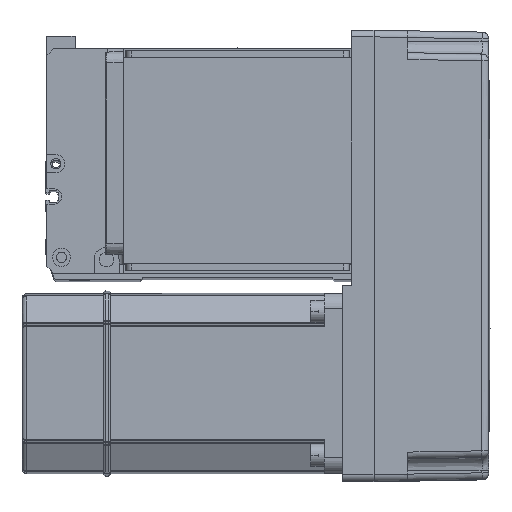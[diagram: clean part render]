
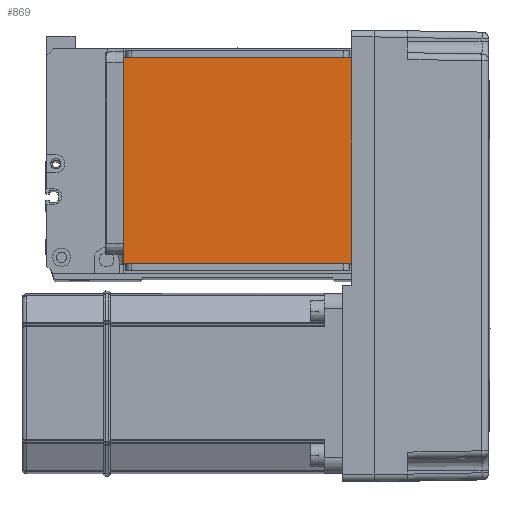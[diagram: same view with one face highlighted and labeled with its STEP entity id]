
A CAD part, top view. The second image highlights one B-rep face of the part: STEP entity #869.
In plain terms, the highlighted planar face has unit normal (0, 0, 1).
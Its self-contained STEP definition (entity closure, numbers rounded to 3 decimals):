
#869 = ADVANCED_FACE ( 'NONE', ( #14170 ), #30763, .T. ) ;
#5862 = EDGE_CURVE ( 'NONE', #26052, #12567, #26542, .T. ) ;
#5895 = EDGE_CURVE ( 'NONE', #19059, #55391, #53468, .T. ) ;
#8276 = EDGE_CURVE ( 'NONE', #26052, #55391, #51478, .T. ) ;
#8804 = VECTOR ( 'NONE', #52243, 1000. ) ;
#12418 = VECTOR ( 'NONE', #27134, 1000. ) ;
#12567 = VERTEX_POINT ( 'NONE', #15070 ) ;
#13845 = DIRECTION ( 'NONE',  ( 0., 1., 0. ) ) ;
#14026 = CARTESIAN_POINT ( 'NONE',  ( 50.5, 122., 115. ) ) ;
#14170 = FACE_OUTER_BOUND ( 'NONE', #48411, .T. ) ;
#14244 = CARTESIAN_POINT ( 'NONE',  ( -50.5, 111.5, 115. ) ) ;
#14499 = VECTOR ( 'NONE', #13845, 1000. ) ;
#15070 = CARTESIAN_POINT ( 'NONE',  ( 50.5, 111.5, 115. ) ) ;
#16456 = ORIENTED_EDGE ( 'NONE', *, *, #5862, .T. ) ;
#17554 = CARTESIAN_POINT ( 'NONE',  ( -70.004, 111.5, 115. ) ) ;
#17815 = DIRECTION ( 'NONE',  ( 1., 0., 0. ) ) ;
#19059 = VERTEX_POINT ( 'NONE', #14244 ) ;
#21798 = ORIENTED_EDGE ( 'NONE', *, *, #8276, .F. ) ;
#22182 = ORIENTED_EDGE ( 'NONE', *, *, #5895, .T. ) ;
#22322 = DIRECTION ( 'NONE',  ( 0., 0., 1. ) ) ;
#22558 = VECTOR ( 'NONE', #31074, 1000. ) ;
#25270 = ORIENTED_EDGE ( 'NONE', *, *, #29018, .F. ) ;
#26052 = VERTEX_POINT ( 'NONE', #54294 ) ;
#26542 = LINE ( 'NONE', #14026, #14499 ) ;
#27134 = DIRECTION ( 'NONE',  ( 0., -1., 0. ) ) ;
#29018 = EDGE_CURVE ( 'NONE', #19059, #12567, #41721, .T. ) ;
#30763 = PLANE ( 'NONE',  #35936 ) ;
#31074 = DIRECTION ( 'NONE',  ( -1., 0., 0. ) ) ;
#31806 = CARTESIAN_POINT ( 'NONE',  ( -50.5, 20., 115. ) ) ;
#35116 = CARTESIAN_POINT ( 'NONE',  ( 0., 0., 115. ) ) ;
#35936 = AXIS2_PLACEMENT_3D ( 'NONE', #35116, #22322, #17815 ) ;
#40098 = CARTESIAN_POINT ( 'NONE',  ( -70.004, 20., 115. ) ) ;
#41721 = LINE ( 'NONE', #17554, #8804 ) ;
#48193 = CARTESIAN_POINT ( 'NONE',  ( -50.5, 122., 115. ) ) ;
#48411 = EDGE_LOOP ( 'NONE', ( #25270, #22182, #21798, #16456 ) ) ;
#51478 = LINE ( 'NONE', #40098, #22558 ) ;
#52243 = DIRECTION ( 'NONE',  ( 1., 0., 0. ) ) ;
#53468 = LINE ( 'NONE', #48193, #12418 ) ;
#54294 = CARTESIAN_POINT ( 'NONE',  ( 50.5, 20., 115. ) ) ;
#55391 = VERTEX_POINT ( 'NONE', #31806 ) ;
